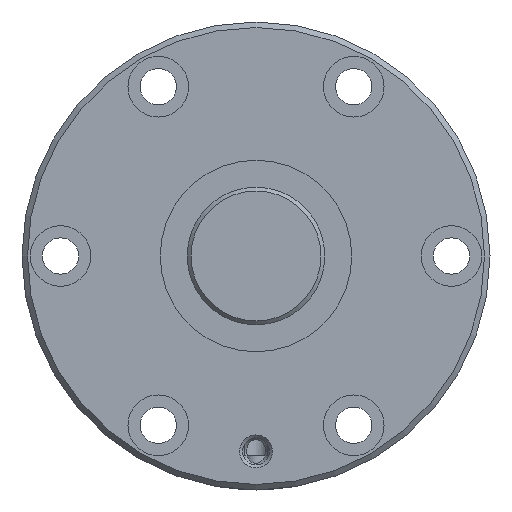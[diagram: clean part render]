
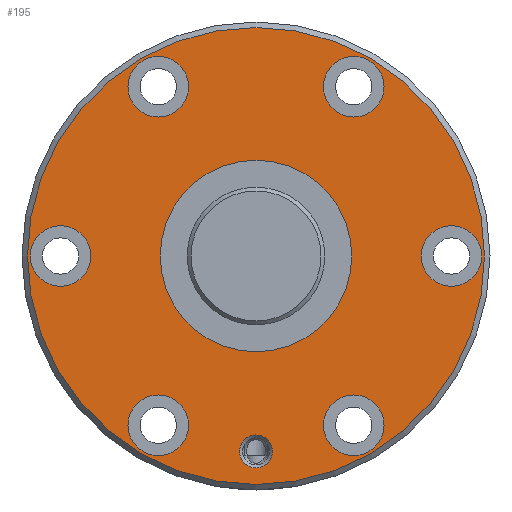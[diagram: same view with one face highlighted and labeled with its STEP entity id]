
A CAD part, left-side view. The second image highlights one B-rep face of the part: STEP entity #195.
In plain terms, the highlighted planar face has unit normal (-1, 0, 0).
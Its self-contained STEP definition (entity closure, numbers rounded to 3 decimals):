
#195 = ADVANCED_FACE( '', ( #329, #330, #331, #332, #333, #334, #335, #336, #337 ), #338, .T. );
#329 = FACE_BOUND( '', #567, .T. );
#330 = FACE_BOUND( '', #568, .T. );
#331 = FACE_BOUND( '', #569, .T. );
#332 = FACE_BOUND( '', #570, .T. );
#333 = FACE_BOUND( '', #571, .T. );
#334 = FACE_BOUND( '', #572, .T. );
#335 = FACE_BOUND( '', #573, .T. );
#336 = FACE_BOUND( '', #574, .T. );
#337 = FACE_OUTER_BOUND( '', #575, .T. );
#338 = PLANE( '', #576 );
#567 = EDGE_LOOP( '', ( #858 ) );
#568 = EDGE_LOOP( '', ( #859 ) );
#569 = EDGE_LOOP( '', ( #860 ) );
#570 = EDGE_LOOP( '', ( #861 ) );
#571 = EDGE_LOOP( '', ( #862 ) );
#572 = EDGE_LOOP( '', ( #863 ) );
#573 = EDGE_LOOP( '', ( #864 ) );
#574 = EDGE_LOOP( '', ( #865 ) );
#575 = EDGE_LOOP( '', ( #866 ) );
#576 = AXIS2_PLACEMENT_3D( '', #867, #868, #869 );
#858 = ORIENTED_EDGE( '', *, *, #1254, .T. );
#859 = ORIENTED_EDGE( '', *, *, #1251, .T. );
#860 = ORIENTED_EDGE( '', *, *, #1240, .T. );
#861 = ORIENTED_EDGE( '', *, *, #1255, .T. );
#862 = ORIENTED_EDGE( '', *, *, #1256, .T. );
#863 = ORIENTED_EDGE( '', *, *, #1257, .T. );
#864 = ORIENTED_EDGE( '', *, *, #1258, .T. );
#865 = ORIENTED_EDGE( '', *, *, #1247, .T. );
#866 = ORIENTED_EDGE( '', *, *, #1259, .F. );
#867 = CARTESIAN_POINT( '', ( 0., 41.5, 0. ) );
#868 = DIRECTION( '', ( -1., 0., 0. ) );
#869 = DIRECTION( '', ( 0., 0., 1. ) );
#1240 = EDGE_CURVE( '', #1383, #1383, #1384, .T. );
#1247 = EDGE_CURVE( '', #1397, #1397, #1398, .T. );
#1251 = EDGE_CURVE( '', #1405, #1405, #1406, .F. );
#1254 = EDGE_CURVE( '', #1411, #1411, #1412, .T. );
#1255 = EDGE_CURVE( '', #1413, #1413, #1414, .T. );
#1256 = EDGE_CURVE( '', #1415, #1415, #1416, .T. );
#1257 = EDGE_CURVE( '', #1417, #1417, #1418, .T. );
#1258 = EDGE_CURVE( '', #1419, #1419, #1420, .T. );
#1259 = EDGE_CURVE( '', #1421, #1421, #1422, .T. );
#1383 = VERTEX_POINT( '', #1714 );
#1384 = CIRCLE( '', #1715, 3. );
#1397 = VERTEX_POINT( '', #1728 );
#1398 = CIRCLE( '', #1729, 5.5 );
#1405 = VERTEX_POINT( '', #1736 );
#1406 = CIRCLE( '', #1737, 5.5 );
#1411 = VERTEX_POINT( '', #1742 );
#1412 = CIRCLE( '', #1743, 17.4 );
#1413 = VERTEX_POINT( '', #1744 );
#1414 = CIRCLE( '', #1745, 5.5 );
#1415 = VERTEX_POINT( '', #1746 );
#1416 = CIRCLE( '', #1747, 5.5 );
#1417 = VERTEX_POINT( '', #1748 );
#1418 = CIRCLE( '', #1749, 5.5 );
#1419 = VERTEX_POINT( '', #1750 );
#1420 = CIRCLE( '', #1751, 5.5 );
#1421 = VERTEX_POINT( '', #1752 );
#1422 = CIRCLE( '', #1753, 41.5 );
#1714 = CARTESIAN_POINT( '', ( 0., 0., -38.5 ) );
#1715 = AXIS2_PLACEMENT_3D( '', #2251, #2252, #2253 );
#1728 = CARTESIAN_POINT( '', ( 0., -35.5, -5.5 ) );
#1729 = AXIS2_PLACEMENT_3D( '', #2272, #2273, #2274 );
#1736 = CARTESIAN_POINT( '', ( 0., 35.5, 5.5 ) );
#1737 = AXIS2_PLACEMENT_3D( '', #2284, #2285, #2286 );
#1742 = CARTESIAN_POINT( '', ( 0., 0., -17.4 ) );
#1743 = AXIS2_PLACEMENT_3D( '', #2293, #2294, #2295 );
#1744 = CARTESIAN_POINT( '', ( 0., 17.75, 25.244 ) );
#1745 = AXIS2_PLACEMENT_3D( '', #2296, #2297, #2298 );
#1746 = CARTESIAN_POINT( '', ( 0., -17.75, -36.244 ) );
#1747 = AXIS2_PLACEMENT_3D( '', #2299, #2300, #2301 );
#1748 = CARTESIAN_POINT( '', ( 0., -17.75, 25.244 ) );
#1749 = AXIS2_PLACEMENT_3D( '', #2302, #2303, #2304 );
#1750 = CARTESIAN_POINT( '', ( 0., 17.75, -36.244 ) );
#1751 = AXIS2_PLACEMENT_3D( '', #2305, #2306, #2307 );
#1752 = CARTESIAN_POINT( '', ( 0., 0., -41.5 ) );
#1753 = AXIS2_PLACEMENT_3D( '', #2308, #2309, #2310 );
#2251 = CARTESIAN_POINT( '', ( 0., 0., -35.5 ) );
#2252 = DIRECTION( '', ( 1., 0., 0. ) );
#2253 = DIRECTION( '', ( 0., 0., -1. ) );
#2272 = CARTESIAN_POINT( '', ( 0., -35.5, 0. ) );
#2273 = DIRECTION( '', ( 1., 0., 0. ) );
#2274 = DIRECTION( '', ( 0., 0., -1. ) );
#2284 = CARTESIAN_POINT( '', ( 0., 35.5, 0. ) );
#2285 = DIRECTION( '', ( -1., 0., 0. ) );
#2286 = DIRECTION( '', ( 0., 0., 1. ) );
#2293 = CARTESIAN_POINT( '', ( 0., 0., 0. ) );
#2294 = DIRECTION( '', ( 1., 0., 0. ) );
#2295 = DIRECTION( '', ( 0., 0., -1. ) );
#2296 = CARTESIAN_POINT( '', ( 0., 17.75, 30.744 ) );
#2297 = DIRECTION( '', ( 1., 0., 0. ) );
#2298 = DIRECTION( '', ( 0., 0., -1. ) );
#2299 = CARTESIAN_POINT( '', ( 0., -17.75, -30.744 ) );
#2300 = DIRECTION( '', ( 1., 0., 0. ) );
#2301 = DIRECTION( '', ( 0., 0., -1. ) );
#2302 = CARTESIAN_POINT( '', ( 0., -17.75, 30.744 ) );
#2303 = DIRECTION( '', ( 1., 0., 0. ) );
#2304 = DIRECTION( '', ( 0., 0., -1. ) );
#2305 = CARTESIAN_POINT( '', ( 0., 17.75, -30.744 ) );
#2306 = DIRECTION( '', ( 1., 0., 0. ) );
#2307 = DIRECTION( '', ( 0., 0., -1. ) );
#2308 = CARTESIAN_POINT( '', ( 0., 0., 0. ) );
#2309 = DIRECTION( '', ( 1., 0., 0. ) );
#2310 = DIRECTION( '', ( 0., 0., -1. ) );
